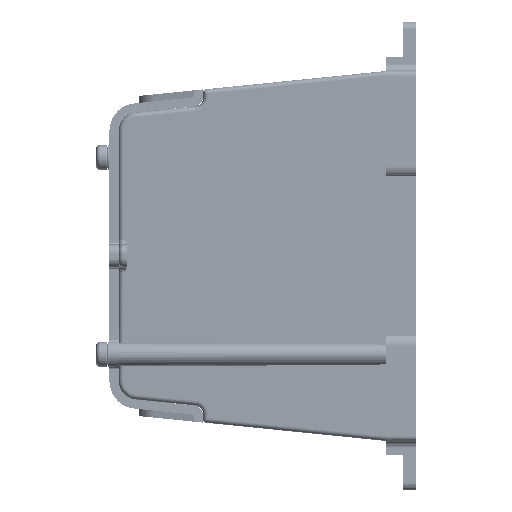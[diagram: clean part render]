
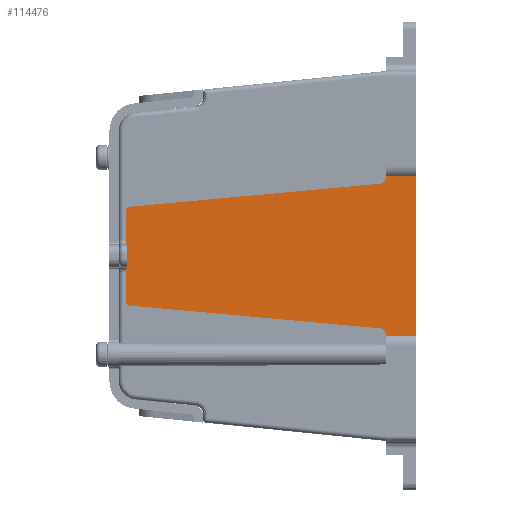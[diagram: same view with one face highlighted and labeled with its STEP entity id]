
A CAD part, left-side view. The second image highlights one B-rep face of the part: STEP entity #114476.
In plain terms, the highlighted planar face has unit normal (-1, 0, 0).
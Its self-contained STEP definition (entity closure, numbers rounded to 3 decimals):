
#7187=LINE('',#157564,#13490);
#7190=LINE('',#157573,#13493);
#7753=LINE('',#159770,#14056);
#7756=LINE('',#159781,#14059);
#7761=LINE('',#159796,#14064);
#7855=LINE('',#160036,#14158);
#7861=LINE('',#160056,#14164);
#7865=LINE('',#160069,#14168);
#7870=LINE('',#160101,#14173);
#7871=LINE('',#160104,#14174);
#7872=LINE('',#160105,#14175);
#7873=LINE('',#160106,#14176);
#13490=VECTOR('',#132482,1000.);
#13493=VECTOR('',#132493,1000.);
#14056=VECTOR('',#134252,1000.);
#14059=VECTOR('',#134263,1000.);
#14064=VECTOR('',#134278,1000.);
#14158=VECTOR('',#134490,1000.);
#14164=VECTOR('',#134506,1000.);
#14168=VECTOR('',#134520,1000.);
#14173=VECTOR('',#134541,1000.);
#14174=VECTOR('',#134542,1000.);
#14175=VECTOR('',#134543,1000.);
#14176=VECTOR('',#134544,1000.);
#18898=PLANE('',#120583);
#26972=ORIENTED_EDGE('',*,*,#48692,.F.);
#26973=ORIENTED_EDGE('',*,*,#48693,.T.);
#26974=ORIENTED_EDGE('',*,*,#48667,.F.);
#26975=ORIENTED_EDGE('',*,*,#48673,.F.);
#26976=ORIENTED_EDGE('',*,*,#48676,.F.);
#26977=ORIENTED_EDGE('',*,*,#48679,.F.);
#26978=ORIENTED_EDGE('',*,*,#48694,.F.);
#26979=ORIENTED_EDGE('',*,*,#48683,.F.);
#26980=ORIENTED_EDGE('',*,*,#47681,.F.);
#26981=ORIENTED_EDGE('',*,*,#47676,.F.);
#26982=ORIENTED_EDGE('',*,*,#48540,.F.);
#26983=ORIENTED_EDGE('',*,*,#48542,.F.);
#26984=ORIENTED_EDGE('',*,*,#48545,.F.);
#26985=ORIENTED_EDGE('',*,*,#48548,.F.);
#26986=ORIENTED_EDGE('',*,*,#48553,.F.);
#26987=ORIENTED_EDGE('',*,*,#48695,.F.);
#47676=EDGE_CURVE('',#59319,#59317,#7187,.T.);
#47681=EDGE_CURVE('',#59317,#59322,#7190,.T.);
#48540=EDGE_CURVE('',#59747,#59319,#7753,.T.);
#48542=EDGE_CURVE('',#59749,#59747,#66876,.T.);
#48545=EDGE_CURVE('',#59751,#59749,#7756,.T.);
#48548=EDGE_CURVE('',#59753,#59751,#66877,.T.);
#48553=EDGE_CURVE('',#59756,#59753,#7761,.T.);
#48667=EDGE_CURVE('',#59799,#59800,#7855,.T.);
#48673=EDGE_CURVE('',#59805,#59799,#66884,.T.);
#48676=EDGE_CURVE('',#59807,#59805,#7861,.T.);
#48679=EDGE_CURVE('',#59809,#59807,#66885,.T.);
#48683=EDGE_CURVE('',#59322,#59811,#7865,.T.);
#48692=EDGE_CURVE('',#59816,#59817,#7870,.T.);
#48693=EDGE_CURVE('',#59816,#59800,#7871,.T.);
#48694=EDGE_CURVE('',#59811,#59809,#7872,.T.);
#48695=EDGE_CURVE('',#59817,#59756,#7873,.T.);
#59317=VERTEX_POINT('',#157559);
#59319=VERTEX_POINT('',#157563);
#59322=VERTEX_POINT('',#157574);
#59747=VERTEX_POINT('',#159769);
#59749=VERTEX_POINT('',#159774);
#59751=VERTEX_POINT('',#159780);
#59753=VERTEX_POINT('',#159786);
#59756=VERTEX_POINT('',#159795);
#59799=VERTEX_POINT('',#160037);
#59800=VERTEX_POINT('',#160038);
#59805=VERTEX_POINT('',#160049);
#59807=VERTEX_POINT('',#160055);
#59809=VERTEX_POINT('',#160061);
#59811=VERTEX_POINT('',#160067);
#59816=VERTEX_POINT('',#160102);
#59817=VERTEX_POINT('',#160103);
#66876=CIRCLE('',#120499,1.5);
#66877=CIRCLE('',#120503,1.);
#66884=CIRCLE('',#120568,1.);
#66885=CIRCLE('',#120572,1.5);
#70410=EDGE_LOOP('',(#26972,#26973,#26974,#26975,#26976,#26977,#26978,#26979,
#26980,#26981,#26982,#26983,#26984,#26985,#26986,#26987));
#75763=FACE_BOUND('',#70410,.T.);
#114476=ADVANCED_FACE('',(#75763),#18898,.F.);
#120499=AXIS2_PLACEMENT_3D('',#159775,#134256,#134257);
#120503=AXIS2_PLACEMENT_3D('',#159787,#134268,#134269);
#120568=AXIS2_PLACEMENT_3D('',#160050,#134499,#134500);
#120572=AXIS2_PLACEMENT_3D('',#160062,#134511,#134512);
#120583=AXIS2_PLACEMENT_3D('',#160100,#134539,#134540);
#132482=DIRECTION('',(0.,-1.,0.));
#132493=DIRECTION('',(0.,0.,-1.));
#134252=DIRECTION('',(0.,0.,1.));
#134256=DIRECTION('',(-1.,0.,0.));
#134257=DIRECTION('',(0.,1.,0.));
#134263=DIRECTION('',(0.,-0.996,0.092));
#134268=DIRECTION('',(1.,0.,0.));
#134269=DIRECTION('',(0.,1.,0.));
#134278=DIRECTION('',(0.,0.,1.));
#134490=DIRECTION('',(0.,0.,1.));
#134499=DIRECTION('',(1.,0.,0.));
#134500=DIRECTION('',(0.,-1.,0.));
#134506=DIRECTION('',(0.,0.996,0.09));
#134511=DIRECTION('',(-1.,0.,0.));
#134512=DIRECTION('',(0.,1.,0.));
#134520=DIRECTION('',(0.,1.,0.));
#134539=DIRECTION('',(1.,0.,0.));
#134540=DIRECTION('',(0.,0.,-1.));
#134541=DIRECTION('',(0.,0.,1.));
#134542=DIRECTION('',(0.,1.,0.));
#134543=DIRECTION('',(0.,0.,1.));
#134544=DIRECTION('',(0.,1.,0.));
#157559=CARTESIAN_POINT('',(-74.1,0.,17.2));
#157563=CARTESIAN_POINT('',(-74.1,6.5,17.2));
#157564=CARTESIAN_POINT('',(-74.1,0.,17.2));
#157573=CARTESIAN_POINT('',(-74.1,0.,-17.2));
#157574=CARTESIAN_POINT('',(-74.1,0.,-17.2));
#159769=CARTESIAN_POINT('',(-74.1,6.5,17.118));
#159770=CARTESIAN_POINT('',(-74.1,6.5,17.118));
#159774=CARTESIAN_POINT('',(-74.1,7.862,15.624));
#159775=CARTESIAN_POINT('',(-74.1,8.,17.118));
#159780=CARTESIAN_POINT('',(-74.1,61.892,10.647));
#159781=CARTESIAN_POINT('',(-74.1,7.862,15.624));
#159786=CARTESIAN_POINT('',(-74.1,62.8,9.651));
#159787=CARTESIAN_POINT('',(-74.1,61.8,9.651));
#159795=CARTESIAN_POINT('',(-74.1,62.8,2.5));
#159796=CARTESIAN_POINT('',(-74.1,62.8,-9.723));
#160036=CARTESIAN_POINT('',(-74.1,62.8,-9.723));
#160037=CARTESIAN_POINT('',(-74.1,62.8,-9.723));
#160038=CARTESIAN_POINT('',(-74.1,62.8,-2.5));
#160049=CARTESIAN_POINT('',(-74.1,61.89,-10.719));
#160050=CARTESIAN_POINT('',(-74.1,61.8,-9.723));
#160055=CARTESIAN_POINT('',(-74.1,7.864,-15.626));
#160056=CARTESIAN_POINT('',(-74.1,7.864,-15.626));
#160061=CARTESIAN_POINT('',(-74.1,6.5,-17.12));
#160062=CARTESIAN_POINT('',(-74.1,8.,-17.12));
#160067=CARTESIAN_POINT('',(-74.1,6.5,-17.2));
#160069=CARTESIAN_POINT('',(-74.1,0.,-17.2));
#160100=CARTESIAN_POINT('',(-74.1,61.8,-9.723));
#160101=CARTESIAN_POINT('',(-74.1,62.6,-9.723));
#160102=CARTESIAN_POINT('',(-74.1,62.6,-2.5));
#160103=CARTESIAN_POINT('',(-74.1,62.6,2.5));
#160104=CARTESIAN_POINT('',(-74.1,62.6,-2.5));
#160105=CARTESIAN_POINT('',(-74.1,6.5,-17.12));
#160106=CARTESIAN_POINT('',(-74.1,62.6,2.5));
